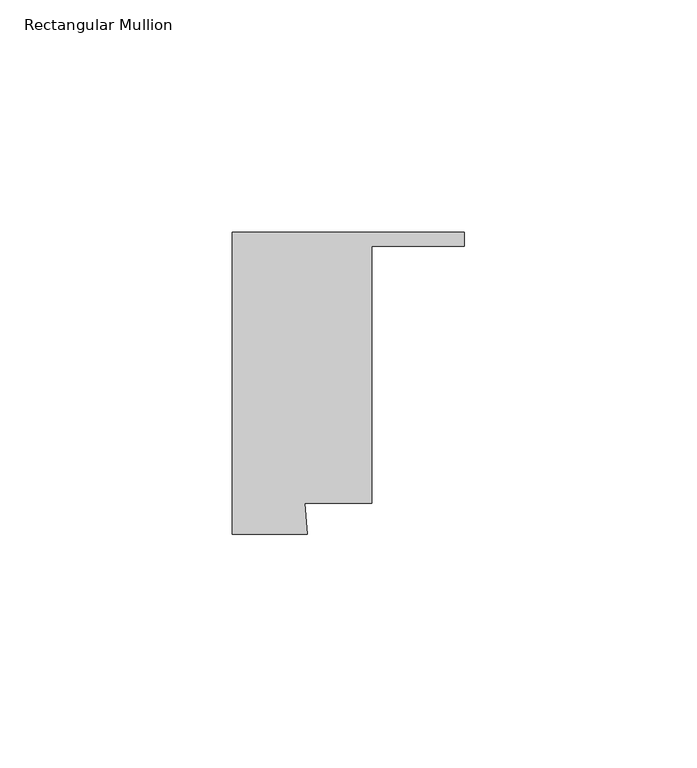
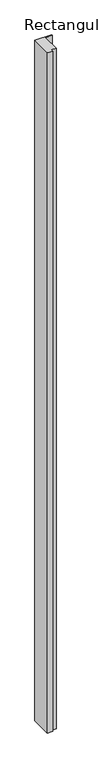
"""IFC4 building model written with IfcOpenShell, lengths in millimetres: member geometry, Rectangular Mullion : MCGRORY - Forster Fuego Light - 60 Min Rated - Door Mullion B Middle."""

from ifc_helpers import new_model, si_unit, frame, origin, place, context, project, spatial, polyline, outline, extrude, source, transform, mapped, element, save


def rectangular_mullion_19f6ccb2(model_context):
    return source(origin(), model_context, "Body", "SweptSolid", [
        extrude(outline(polyline([(24.9890639, 32.485783), (24.9890639, 29.4870954), (4.9978128, 29.4870954), (4.9978128, -25.8886702), (-9.3906985, -25.8886702), (-8.8135259, -32.485783), (-24.9890639, -32.485783), (-24.9890639, 32.485783), (24.9890639, 32.485783)])), frame((0.0, 0.0, -2163.6), z_axis=(0.0, 0.0, 1.0), x_axis=(1.0, 0.0, 0.0)), (0.0, 0.0, 1.0), 2163.6),
    ])


if __name__ == "__main__":
    model = new_model("IFC4")
    model_context = context("Model", 3, world=origin())
    ifc_project = project(units=[si_unit("LENGTHUNIT", "METRE", prefix="MILLI")], contexts=[model_context])
    site = spatial("IfcSite", under=ifc_project)
    building = spatial("IfcBuilding", under=site)
    placement = place(None, origin())
    rectangular_mullion_shape = rectangular_mullion_19f6ccb2(model_context)
    element("IfcMember", 1, ObjectType="Rectangular Mullion : MCGRORY - Forster Fuego Light - 60 Min Rated - Door Mullion B Middle", at=placement, inside=building, context=model_context, shape_type="MappedRepresentation", body=[
        mapped(rectangular_mullion_shape, transform((0.0, 0.0, 0.0), x_axis=(1.0, 0.0, 0.0), y_axis=(0.0, 1.0, 0.0), z_axis=(0.0, 0.0, 1.0))),
    ])
    save(model, "model.ifc")
